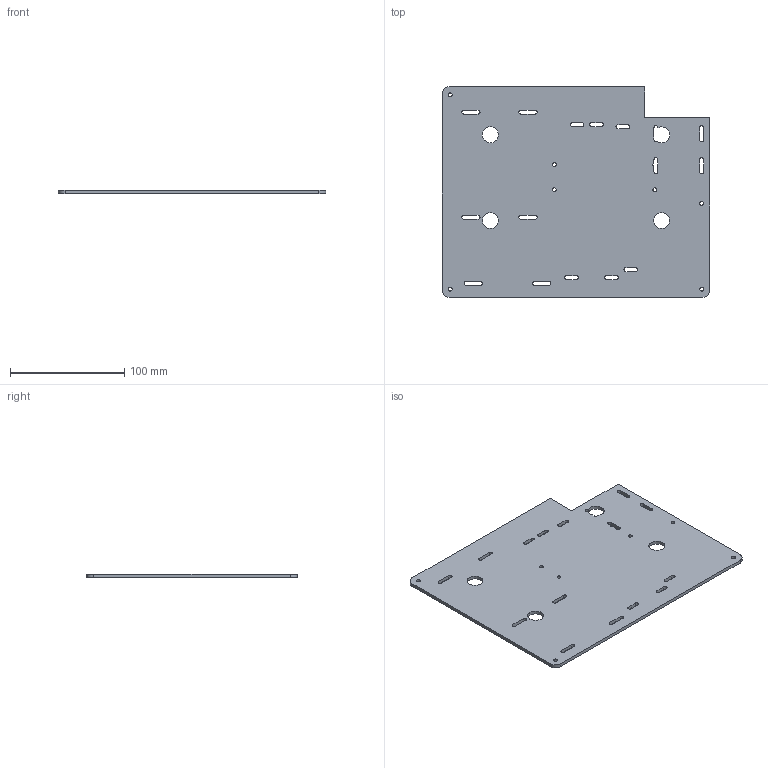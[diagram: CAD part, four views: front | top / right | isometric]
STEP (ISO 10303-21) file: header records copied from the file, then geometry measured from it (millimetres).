
FILE_DESCRIPTION(('Open CASCADE Model'),'2;1');
FILE_NAME('Open CASCADE Shape Model','2026-10-05T19:39:43',('Author'),( 'Open CASCADE'),'Open CASCADE STEP processor 7.8','Open CASCADE 7.8' ,'Unknown');
FILE_SCHEMA(('AUTOMOTIVE_DESIGN { 1 0 10303 214 1 1 1 1 }'));
Length unit declared in the file: millimetre
Products named in the file (1): Open CASCADE STEP translator 7.8 3
Bounding box: 234 x 184 x 3 mm (x, y, z)
Volume: 120307.5 mm3; surface area: 84900.6 mm2
Topology: 1 solids, 1 shells, 90 faces, 264 edges, 176 vertices
Faces by surface type: cylinder 48, plane 42
Full cylindrical faces by diameter (mm): 3.4 x7, 14 x3
Entity records: 6689 total; most frequent: CARTESIAN_POINT 1777, DIRECTION 817, ORIENTED_EDGE 528, PCURVE 528, DEFINITIONAL_REPRESENTATION 528, LINE 440, VECTOR 440, EDGE_CURVE 264
